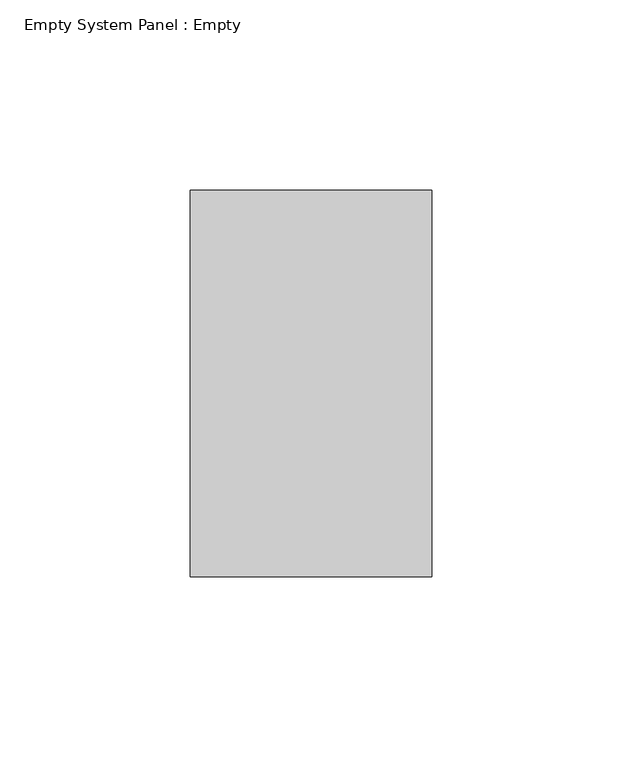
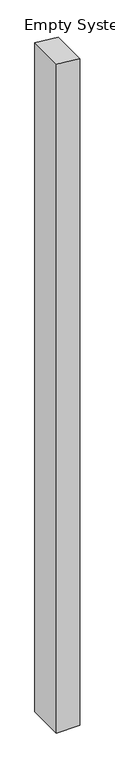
"""IFC4 building model written with IfcOpenShell, lengths in millimetres: plate geometry, Empty System Panel : Empty."""

from ifc_helpers import new_model, si_unit, frame, origin, place, context, project, spatial, polyline, outline, extrude, source, transform, mapped, element, save


def empty_system_panel_empty_9a2fc030(model_context):
    return source(origin(), model_context, "Body", "SweptSolid", [
        extrude(outline(polyline([(0.0, -31.75), (0.0, 31.75), (1914.6420939, 31.75), (1921.744453, -31.75), (0.0, -31.75)])), frame((0.0, -50.8, 0.0), z_axis=(0.0, 1.0, 0.0), x_axis=(0.0, 0.0, 1.0)), (0.0, 0.0, 1.0), 101.6),
    ])


if __name__ == "__main__":
    model = new_model("IFC4")
    model_context = context("Model", 3, world=origin())
    ifc_project = project(units=[si_unit("LENGTHUNIT", "METRE", prefix="MILLI")], contexts=[model_context])
    site = spatial("IfcSite", under=ifc_project)
    building = spatial("IfcBuilding", under=site)
    placement = place(None, origin())
    empty_system_panel_empty_shape = empty_system_panel_empty_9a2fc030(model_context)
    element("IfcPlate", 1, ObjectType="Empty System Panel : Empty", at=placement, inside=building, context=model_context, shape_type="MappedRepresentation", body=[
        mapped(empty_system_panel_empty_shape, transform((0.0, 0.0, 0.0), x_axis=(1.0, 0.0, 0.0), y_axis=(0.0, 1.0, 0.0), z_axis=(0.0, 0.0, 1.0))),
    ])
    save(model, "model.ifc")
